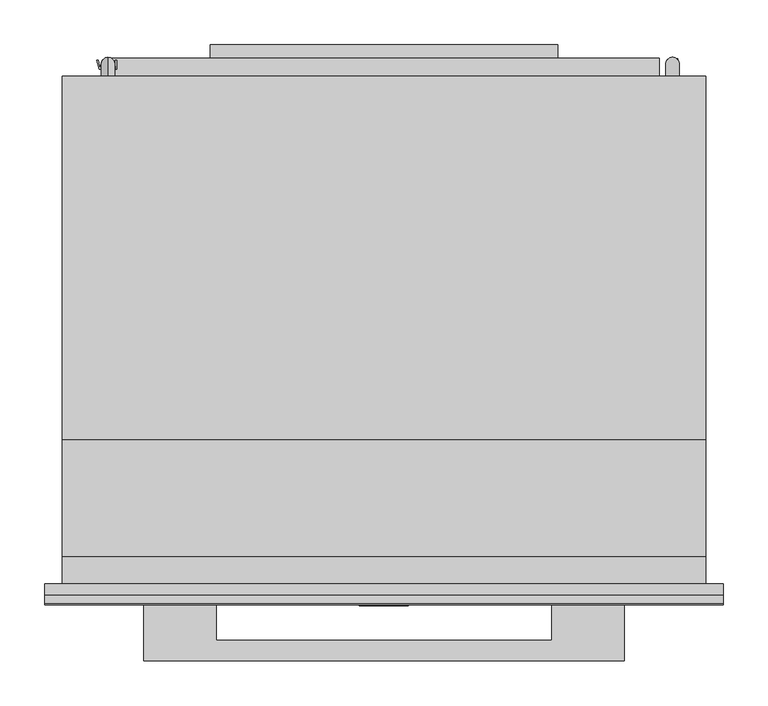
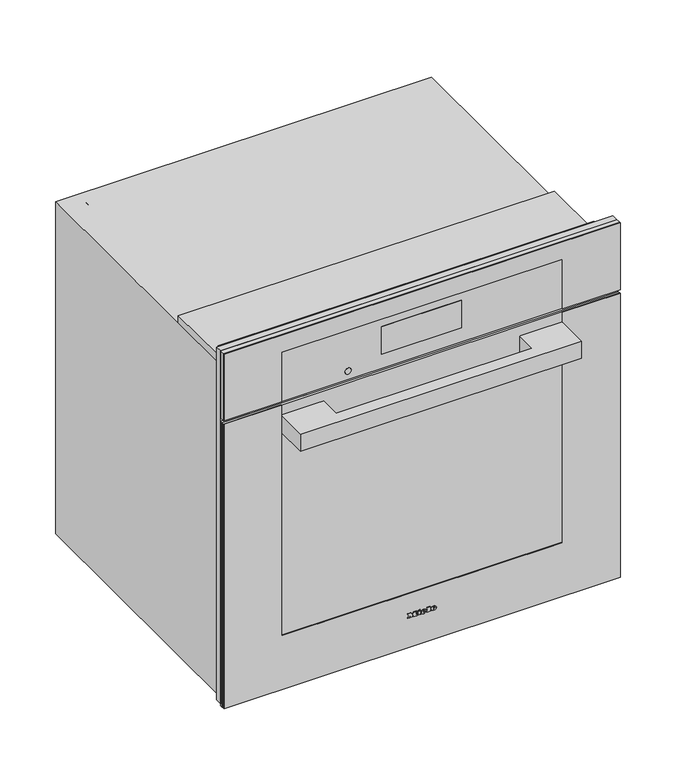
"""IFC4 building model written with IfcOpenShell, lengths in millimetres: proxy geometry, 11805560_USA_H7780BP_EDST-CLST : 22778045_USA_11805560_H7780BP_EDST-CLST."""

from ifc_helpers import new_model, si_unit, point, frame, frame_2d, origin, place, context, project, spatial, polyline, circle_curve, ellipse_curve, trimmed, segment, composite_curve, outline, extrude, faceted_brep, source, transform, mapped, element, save
from ifc_brep_helpers import plane_surface, cylinder_surface, revolved_surface, extruded_surface, advanced_brep


def specialty_equipment_a832f703(model_context):
    return source(origin(), model_context, "Body", "SolidModel", [
        advanced_brep(
        [(21.28, -24.3, 73.133), (21.28, -24.3, 74.042), (27.301, -24.3, 74.042), (16.825, -24.3, 74.042), (19.3, -24.3, 71.0), (27.148, -24.3, 73.133), (24.43, -24.3, 73.133), (22.288, -24.3, 72.125), (21.28, -24.3, 75.194), (21.28, -24.3, 76.175), (22.819, -24.3, 76.175), (22.819, -24.3, 75.194), (21.28, -23.3, 73.133), (22.288, -23.3, 72.125), (24.43, -23.3, 73.133), (27.148, -23.3, 73.133), (19.3, -23.3, 71.0), (16.825, -23.3, 74.042), (27.301, -23.3, 74.042), (21.28, -23.3, 74.042), (21.28, -23.3, 75.194), (22.819, -23.3, 75.194), (22.819, -23.3, 76.175), (21.28, -23.3, 76.175)],
        [
            (0, 1),
            (1, 2),
            (2, 3, ellipse_curve(frame((22.063, -24.3, 74.042), z_axis=(0.0, -1.0, 0.0), x_axis=(-1.0, 0.0, 0.0)), 5.238, 4.329)),
            (3, 4, circle_curve(frame((20.3080491, -24.3, 74.348), z_axis=(0.0, -1.0, 0.0), x_axis=(0.0, 0.0, -1.0)), 3.4964649)),
            (4, 5, circle_curve(frame((21.9581428, -24.3, 76.724), z_axis=(0.0, -1.0, 0.0), x_axis=(0.0, 0.0, -1.0)), 6.3110933)),
            (5, 6),
            (6, 7, circle_curve(frame((22.7279412, -24.3, 73.97), z_axis=(0.0, 1.0, 0.0), x_axis=(0.0, 0.0, -1.0)), 1.896727)),
            (7, 0, circle_curve(frame((22.288, -24.3, 73.133), z_axis=(0.0, 1.0, 0.0), x_axis=(0.0, 0.0, -1.0)), 1.008)),
            (8, 9),
            (9, 10, circle_curve(frame((22.0495, -24.3, 76.175), z_axis=(0.0, 1.0, 0.0), x_axis=(0.0, 0.0, -1.0)), 0.7695)),
            (10, 11),
            (11, 8),
            (12, 13, circle_curve(frame((22.288, -23.3, 73.133), z_axis=(0.0, -1.0, 0.0), x_axis=(0.0, 0.0, -1.0)), 1.008)),
            (13, 14, circle_curve(frame((22.7279412, -23.3, 73.97), z_axis=(0.0, -1.0, 0.0), x_axis=(0.0, 0.0, -1.0)), 1.896727)),
            (14, 15),
            (15, 16, circle_curve(frame((21.9581428, -23.3, 76.724), z_axis=(0.0, 1.0, 0.0), x_axis=(0.0, 0.0, -1.0)), 6.3110933)),
            (16, 17, circle_curve(frame((20.3080491, -23.3, 74.348), z_axis=(0.0, 1.0, 0.0), x_axis=(0.0, 0.0, -1.0)), 3.4964649)),
            (17, 18, ellipse_curve(frame((22.063, -23.3, 74.042), z_axis=(0.0, 1.0, 0.0), x_axis=(-1.0, 0.0, 0.0)), 5.238, 4.329)),
            (18, 19),
            (19, 12),
            (20, 21),
            (21, 22),
            (22, 23, circle_curve(frame((22.0495, -23.3, 76.175), z_axis=(0.0, -1.0, 0.0), x_axis=(0.0, 0.0, -1.0)), 0.7695)),
            (23, 20),
            (0, 12),
            (19, 1),
            (18, 2),
            (5, 15),
            (14, 6),
            (17, 3),
            (13, 7),
            (16, 4),
            (8, 20),
            (23, 9),
            (22, 10),
            (21, 11),
        ],
        [
            plane_surface(frame((21.28, -24.3, 74.042), z_axis=(0.0, -1.0, 0.0), x_axis=(0.0, 0.0, 1.0))),
            plane_surface(frame((21.28, -23.3, 74.042), z_axis=(0.0, 1.0, 0.0), x_axis=(0.0, 0.0, -1.0))),
            plane_surface(frame((21.28, -24.3, 73.133), z_axis=(1.0, 0.0, 0.0), x_axis=(0.0, 1.0, 0.0))),
            plane_surface(frame((21.28, -24.3, 74.042), z_axis=(0.0, 0.0, -1.0), x_axis=(0.0, 1.0, 0.0))),
            plane_surface(frame((27.148, -24.3, 73.133), z_axis=(0.0, 0.0, 1.0), x_axis=(0.0, 1.0, 0.0))),
            extruded_surface(trimmed(ellipse_curve(frame((22.063, -22.3, 74.042), z_axis=(0.0, -1.0, 0.0), x_axis=(-1.0, 0.0, 0.0)), 5.238, 4.329), [point((27.301, -22.3, 74.042))], [point((16.825, -22.3, 74.042))], True, "CARTESIAN"), (0.0, -1.0, 0.0), 1.0),
            revolved_surface(polyline([(22.7279412, -23.3, 72.073273), (22.7279412, -24.3, 72.073273)]), (22.7279412, -23.3, 73.97), (0.0, 1.0, 0.0)),
            revolved_surface(polyline([(22.288, -23.3, 72.125), (22.288, -24.3, 72.125)]), (22.288, -23.3, 73.133), (0.0, 1.0, 0.0)),
            cylinder_surface(frame((20.3080491, -23.3, 74.348), z_axis=(0.0, -1.0, 0.0), x_axis=(0.0, 0.0, -1.0)), 3.4964649),
            cylinder_surface(frame((21.9581428, -23.3, 76.724), z_axis=(0.0, -1.0, 0.0), x_axis=(0.0, 0.0, -1.0)), 6.3110933),
            plane_surface(frame((21.28, -24.3, 75.194), z_axis=(1.0, 0.0, 0.0), x_axis=(0.0, 1.0, 0.0))),
            revolved_surface(polyline([(22.0495, -23.3, 75.4055), (22.0495, -24.3, 75.4055)]), (22.0495, -23.3, 76.175), (0.0, 1.0, 0.0)),
            plane_surface(frame((22.819, -24.3, 76.175), z_axis=(-1.0, 0.0, 0.0), x_axis=(0.0, 1.0, 0.0))),
            plane_surface(frame((22.819, -24.3, 75.194), z_axis=(0.0, 0.0, 1.0), x_axis=(0.0, 1.0, 0.0))),
        ],
        [
            (0, [[1, 2, 3, 4, 5, 6, 7, 8], [9, 10, 11, 12]]),
            (1, [[13, 14, 15, 16, 17, 18, 19, 20], [21, 22, 23, 24]]),
            (2, [[-1, 25, -20, 26]]),
            (3, [[-2, -26, -19, 27]]),
            (4, [[-6, 28, -15, 29]]),
            (5, [[-3, -27, -18, 30]]),
            (6, [[-7, -29, -14, 31]]),
            (7, [[-8, -31, -13, -25]]),
            (8, [[-4, -30, -17, 32]]),
            (9, [[-5, -32, -16, -28]]),
            (10, [[-9, 33, -24, 34]]),
            (11, [[-10, -34, -23, 35]]),
            (12, [[-11, -35, -22, 36]]),
            (13, [[-12, -36, -21, -33]]),
        ],
    ),
        advanced_brep(
        [(2.497, -24.3, 73.133), (2.497, -24.3, 74.042), (8.518, -24.3, 74.042), (-1.958, -24.3, 74.042), (0.517, -24.3, 71.0), (8.365, -24.3, 73.133), (5.647, -24.3, 73.133), (3.505, -24.3, 72.125), (2.497, -24.3, 75.194), (2.497, -24.3, 76.175), (4.036, -24.3, 76.175), (4.036, -24.3, 75.194), (2.497, -23.3, 73.133), (3.505, -23.3, 72.125), (5.647, -23.3, 73.133), (8.365, -23.3, 73.133), (0.517, -23.3, 71.0), (-1.958, -23.3, 74.042), (8.518, -23.3, 74.042), (2.497, -23.3, 74.042), (2.497, -23.3, 75.194), (4.036, -23.3, 75.194), (4.036, -23.3, 76.175), (2.497, -23.3, 76.175)],
        [
            (0, 1),
            (1, 2),
            (2, 3, ellipse_curve(frame((3.28, -24.3, 74.042), z_axis=(0.0, -1.0, 0.0), x_axis=(-1.0, 0.0, 0.0)), 5.238, 4.329)),
            (3, 4, circle_curve(frame((1.5250491, -24.3, 74.348), z_axis=(0.0, -1.0, 0.0), x_axis=(0.0, 0.0, -1.0)), 3.4964649)),
            (4, 5, circle_curve(frame((3.1751428, -24.3, 76.724), z_axis=(0.0, -1.0, 0.0), x_axis=(0.0, 0.0, -1.0)), 6.3110933)),
            (5, 6),
            (6, 7, circle_curve(frame((3.9449412, -24.3, 73.97), z_axis=(0.0, 1.0, 0.0), x_axis=(0.0, 0.0, -1.0)), 1.896727)),
            (7, 0, circle_curve(frame((3.505, -24.3, 73.133), z_axis=(0.0, 1.0, 0.0), x_axis=(0.0, 0.0, -1.0)), 1.008)),
            (8, 9),
            (9, 10, circle_curve(frame((3.2665, -24.3, 76.175), z_axis=(0.0, 1.0, 0.0), x_axis=(0.0, 0.0, -1.0)), 0.7695)),
            (10, 11),
            (11, 8),
            (12, 13, circle_curve(frame((3.505, -23.3, 73.133), z_axis=(0.0, -1.0, 0.0), x_axis=(0.0, 0.0, -1.0)), 1.008)),
            (13, 14, circle_curve(frame((3.9449412, -23.3, 73.97), z_axis=(0.0, -1.0, 0.0), x_axis=(0.0, 0.0, -1.0)), 1.896727)),
            (14, 15),
            (15, 16, circle_curve(frame((3.1751428, -23.3, 76.724), z_axis=(0.0, 1.0, 0.0), x_axis=(0.0, 0.0, -1.0)), 6.3110933)),
            (16, 17, circle_curve(frame((1.5250491, -23.3, 74.348), z_axis=(0.0, 1.0, 0.0), x_axis=(0.0, 0.0, -1.0)), 3.4964649)),
            (17, 18, ellipse_curve(frame((3.28, -23.3, 74.042), z_axis=(0.0, 1.0, 0.0), x_axis=(-1.0, 0.0, 0.0)), 5.238, 4.329)),
            (18, 19),
            (19, 12),
            (20, 21),
            (21, 22),
            (22, 23, circle_curve(frame((3.2665, -23.3, 76.175), z_axis=(0.0, -1.0, 0.0), x_axis=(0.0, 0.0, -1.0)), 0.7695)),
            (23, 20),
            (0, 12),
            (19, 1),
            (18, 2),
            (5, 15),
            (14, 6),
            (17, 3),
            (13, 7),
            (16, 4),
            (8, 20),
            (23, 9),
            (22, 10),
            (21, 11),
        ],
        [
            plane_surface(frame((2.497, -24.3, 74.042), z_axis=(0.0, -1.0, 0.0), x_axis=(0.0, 0.0, 1.0))),
            plane_surface(frame((2.497, -23.3, 74.042), z_axis=(0.0, 1.0, 0.0), x_axis=(0.0, 0.0, -1.0))),
            plane_surface(frame((2.497, -24.3, 73.133), z_axis=(1.0, 0.0, 0.0), x_axis=(0.0, 1.0, 0.0))),
            plane_surface(frame((2.497, -24.3, 74.042), z_axis=(0.0, 0.0, -1.0), x_axis=(0.0, 1.0, 0.0))),
            plane_surface(frame((8.365, -24.3, 73.133), z_axis=(0.0, 0.0, 1.0), x_axis=(0.0, 1.0, 0.0))),
            extruded_surface(trimmed(ellipse_curve(frame((3.28, -22.3, 74.042), z_axis=(0.0, -1.0, 0.0), x_axis=(-1.0, 0.0, 0.0)), 5.238, 4.329), [point((8.518, -22.3, 74.042))], [point((-1.958, -22.3, 74.042))], True, "CARTESIAN"), (0.0, -1.0, 0.0), 1.0),
            revolved_surface(polyline([(3.9449412, -23.3, 72.073273), (3.9449412, -24.3, 72.073273)]), (3.9449412, -23.3, 73.97), (0.0, 1.0, 0.0)),
            revolved_surface(polyline([(3.505, -23.3, 72.125), (3.505, -24.3, 72.125)]), (3.505, -23.3, 73.133), (0.0, 1.0, 0.0)),
            cylinder_surface(frame((1.5250491, -23.3, 74.348), z_axis=(0.0, -1.0, 0.0), x_axis=(0.0, 0.0, -1.0)), 3.4964649),
            cylinder_surface(frame((3.1751428, -23.3, 76.724), z_axis=(0.0, -1.0, 0.0), x_axis=(0.0, 0.0, -1.0)), 6.3110933),
            plane_surface(frame((2.497, -24.3, 75.194), z_axis=(1.0, 0.0, 0.0), x_axis=(0.0, 1.0, 0.0))),
            revolved_surface(polyline([(3.2665, -23.3, 75.4055), (3.2665, -24.3, 75.4055)]), (3.2665, -23.3, 76.175), (0.0, 1.0, 0.0)),
            plane_surface(frame((4.036, -24.3, 76.175), z_axis=(-1.0, 0.0, 0.0), x_axis=(0.0, 1.0, 0.0))),
            plane_surface(frame((4.036, -24.3, 75.194), z_axis=(0.0, 0.0, 1.0), x_axis=(0.0, 1.0, 0.0))),
        ],
        [
            (0, [[1, 2, 3, 4, 5, 6, 7, 8], [9, 10, 11, 12]]),
            (1, [[13, 14, 15, 16, 17, 18, 19, 20], [21, 22, 23, 24]]),
            (2, [[-1, 25, -20, 26]]),
            (3, [[-2, -26, -19, 27]]),
            (4, [[-6, 28, -15, 29]]),
            (5, [[-3, -27, -18, 30]]),
            (6, [[-7, -29, -14, 31]]),
            (7, [[-8, -31, -13, -25]]),
            (8, [[-4, -30, -17, 32]]),
            (9, [[-5, -32, -16, -28]]),
            (10, [[-9, 33, -24, 34]]),
            (11, [[-10, -34, -23, 35]]),
            (12, [[-11, -35, -22, 36]]),
            (13, [[-12, -36, -21, -33]]),
        ],
    ),
        extrude(outline(polyline([(79.469, -7.34), (78.011, -6.656), (79.433, -3.605), (80.891, -4.28), (79.469, -7.34)])), frame((0.0, -24.3, 0.0), z_axis=(0.0, 1.0, 0.0), x_axis=(0.0, 0.0, 1.0)), (0.0, 0.0, 1.0), 1.0),
        extrude(outline(polyline([(77.813, -9.563), (76.202, -9.563), (76.202, -8.492), (72.512, -8.492), (72.512, -9.563), (71.0, -9.563), (71.0, -2.462), (72.512, -2.462), (72.512, -3.506), (77.813, -3.506), (77.813, -9.563)])), frame((0.0, -24.3, 0.0), z_axis=(0.0, 1.0, 0.0), x_axis=(0.0, 0.0, 1.0)), (0.0, 0.0, 1.0), 1.0),
        extrude(outline(polyline([(78.533, 9.022), (78.533, 10.102), (72.512, 10.102), (72.512, 9.022), (71.0, 9.022), (71.0, 16.321), (72.512, 16.321), (72.512, 15.214), (80.0, 15.214), (80.0, 9.022), (78.533, 9.022)])), frame((0.0, -24.3, 0.0), z_axis=(0.0, 1.0, 0.0), x_axis=(0.0, 0.0, 1.0)), (0.0, 0.0, 1.0), 1.0),
        extrude(outline(polyline([(78.533, -27.5), (78.533, -26.411), (72.512, -26.411), (72.512, -27.5), (71.0, -27.5), (71.0, -23.54), (72.512, -23.54), (72.512, -24.62), (76.3341247, -24.62), (71.0, -20.597), (76.4402223, -16.556), (72.512, -16.556), (72.512, -17.663), (71.0, -17.663), (71.0, -10.481), (72.512, -10.481), (72.512, -11.624), (78.533, -11.624), (78.533, -10.481), (80.0, -10.481), (80.0, -15.962), (76.625, -18.59), (80.0, -21.227), (80.0, -27.5), (78.533, -27.5)])), frame((0.0, -24.3, 0.0), z_axis=(0.0, 1.0, 0.0), x_axis=(0.0, 0.0, 1.0)), (0.0, 0.0, 1.0), 1.0),
        extrude(outline(polyline([(585.0, -268.5), (585.0, -378.5), (11.0, -378.5), (11.0, 378.5), (585.0, 378.5), (585.0, 268.5), (120.0, 268.5), (120.0, -268.5), (585.0, -268.5)])), frame((0.0, -23.3, 0.0), z_axis=(0.0, 1.0, 0.0), x_axis=(0.0, 0.0, 1.0)), (0.0, 0.0, 1.0), 1.3),
        extrude(outline(polyline([(378.5, -22.0), (-378.5, -22.0), (-378.5, -18.0), (378.5, -18.0), (378.5, -22.0)])), frame((0.0, 0.0, 11.0), z_axis=(0.0, 0.0, 1.0), x_axis=(1.0, 0.0, 0.0)), (0.0, 0.0, 1.0), 574.0),
        extrude(outline(polyline([(-187.0, -22.0), (-187.0, -63.0), (187.0, -63.0), (187.0, -22.0), (268.0, -22.0), (268.0, -86.0), (-268.0, -86.0), (-268.0, -22.0), (-187.0, -22.0)])), frame((0.0, 0.0, 530.0), z_axis=(0.0, 0.0, 1.0), x_axis=(1.0, 0.0, 0.0)), (0.0, 0.0, 1.0), 35.0),
        extrude(outline(polyline([(378.5, -18.0), (-378.5, -18.0), (-378.5, -13.0), (378.5, -13.0), (378.5, -18.0)])), frame((0.0, 0.0, 11.0), z_axis=(0.0, 0.0, 1.0), x_axis=(1.0, 0.0, 0.0)), (0.0, 0.0, 1.0), 574.0),
        extrude(outline(polyline([(-250.5, -18.0), (250.5, -18.0), (250.5, -22.0), (-250.5, -22.0), (-250.5, -18.0)])), frame((0.0, 0.0, 150.0), z_axis=(0.0, 0.0, 1.0), x_axis=(1.0, 0.0, 0.0)), (0.0, 0.0, 1.0), 344.0),
        extrude(outline(polyline([(727.0, -378.5), (592.0, -378.5), (592.0, -268.5), (692.0, -268.5), (692.0, 268.5), (592.0, 268.5), (592.0, 378.5), (727.0, 378.5), (727.0, -378.5)])), frame((0.0, -23.3, 0.0), z_axis=(0.0, 1.0, 0.0), x_axis=(0.0, 0.0, 1.0)), (0.0, 0.0, 1.0), 1.3),
        extrude(outline(polyline([(-76.5, -21.0), (76.5, -21.0), (76.5, -22.0), (-76.5, -22.0), (-76.5, -21.0)])), frame((0.0, 0.0, 620.0), z_axis=(0.0, 0.0, 1.0), x_axis=(1.0, 0.0, 0.0)), (0.0, 0.0, 1.0), 56.0),
        faceted_brep([(378.5, -22.0, 727.0), (-378.5, -22.0, 727.0), (-378.5, -22.0, 592.0), (378.5, -22.0, 592.0), (76.5, -22.0, 676.0), (76.5, -22.0, 620.0), (-76.5, -22.0, 620.0), (-76.5, -22.0, 676.0), (378.5, -13.0, 727.0), (378.5, -13.0, 592.0), (-378.5, -13.0, 592.0), (-378.5, -13.0, 727.0), (76.5, -21.0, 676.0), (-76.5, -21.0, 676.0), (-76.5, -21.0, 620.0), (76.5, -21.0, 620.0)], [[[0, 1, 2, 3], [4, 5, 6, 7]], [[8, 9, 10, 11]], [[1, 0, 8, 11]], [[2, 1, 11, 10]], [[3, 2, 10, 9]], [[0, 3, 9, 8]], [[12, 13, 14, 15]], [[12, 15, 5, 4]], [[15, 14, 6, 5]], [[14, 13, 7, 6]], [[13, 12, 4, 7]]]),
        extrude(outline(composite_curve([segment(trimmed(circle_curve(frame_2d((609.0, -140.5745637)), 6.0), [point((609.0, -146.5745637))], [point((609.0, -134.5745637))], False, "CARTESIAN"), True, "CONTINUOUS"), segment(trimmed(circle_curve(frame_2d((609.0, -140.5745637)), 6.0), [point((609.0, -134.5745637))], [point((609.0, -146.5745637))], False, "CARTESIAN"), True, "CONTINUOUS")], self_intersect=False)), frame((0.0, -22.5, 0.0), z_axis=(0.0, 1.0, 0.0), x_axis=(0.0, 0.0, 1.0)), (0.0, 0.0, 1.0), 1.0),
        extrude(outline(polyline([(327.856335, 586.4164958), (327.856335, 576.4164958), (322.0, 576.4164958), (322.0, 577.4164958), (326.856335, 577.4164958), (326.856335, 580.9164958), (323.9061855, 580.9164958), (323.9061855, 581.9164958), (326.856335, 581.9164958), (326.856335, 585.4164958), (322.0, 585.4164958), (322.0, 586.4164958), (327.856335, 586.4164958)])), frame((0.0, 0.0, 585.0), z_axis=(0.0, 0.0, 1.0), x_axis=(1.0, 0.0, 0.0)), (0.0, 0.0, 1.0), 1.0),
        extrude(outline(polyline([(320.5, 576.4164958), (315.5, 576.4164958), (315.5, 577.4164958), (319.3952098, 577.4164958), (319.3952098, 586.4164958), (320.5, 586.4164958), (320.5, 576.4164958)])), frame((0.0, 0.0, 585.0), z_axis=(0.0, 0.0, 1.0), x_axis=(1.0, 0.0, 0.0)), (0.0, 0.0, 1.0), 1.0),
        advanced_brep(
        [(329.5, 567.0, 616.0), (314.5, 567.0, 616.0), (329.5, 580.5, 616.0), (314.5, 580.5, 616.0), (329.5, 580.5, 586.0), (314.5, 580.5, 586.0)],
        [
            (0, 1, circle_curve(frame((322.0, 567.0, 616.0), z_axis=(0.0, -1.0, 0.0), x_axis=(-1.0, 0.0, 0.0)), 7.5)),
            (1, 0, circle_curve(frame((322.0, 567.0, 616.0), z_axis=(0.0, -1.0, 0.0), x_axis=(-1.0, 0.0, 0.0)), 7.5)),
            (0, 2),
            (2, 3, ellipse_curve(frame((322.0, 580.5, 616.0), z_axis=(0.0, -0.7071067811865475, 0.7071067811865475), x_axis=(0.0, -0.7071067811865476, -0.7071067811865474)), 10.6066017, 7.5)),
            (3, 1),
            (3, 2, ellipse_curve(frame((322.0, 580.5, 616.0), z_axis=(0.0, -0.7071067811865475, 0.7071067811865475), x_axis=(0.0, -0.7071067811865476, -0.7071067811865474)), 10.6066017, 7.5)),
            (4, 5, circle_curve(frame((322.0, 580.5, 586.0), z_axis=(0.0, 0.0, -1.0), x_axis=(-1.0, 0.0, 0.0)), 7.5)),
            (5, 4, circle_curve(frame((322.0, 580.5, 586.0), z_axis=(0.0, 0.0, -1.0), x_axis=(-1.0, 0.0, 0.0)), 7.5)),
            (2, 4),
            (5, 3),
        ],
        [
            plane_surface(frame((322.0, 567.0, 616.0), z_axis=(0.0, -1.0, 0.0), x_axis=(-1.0, 0.0, 0.0))),
            cylinder_surface(frame((322.0, 567.0, 616.0), z_axis=(0.0, -1.0, 0.0), x_axis=(-1.0, 0.0, 0.0)), 7.5),
            plane_surface(frame((322.0, 580.5, 586.0), z_axis=(0.0, 0.0, -1.0), x_axis=(-1.0, 0.0, 0.0))),
            cylinder_surface(frame((322.0, 580.5, 616.0), z_axis=(0.0, 0.0, 1.0), x_axis=(-1.0, 0.0, 0.0)), 7.5),
        ],
        [
            (0, [[1, 2]]),
            (1, [[-1, 3, 4, 5]]),
            (1, [[-2, -5, 6, -3]]),
            (2, [[7, 8]]),
            (3, [[-4, 9, -8, 10]]),
            (3, [[-6, -10, -7, -9]]),
        ],
    ),
        extrude(outline(polyline([(-299.6202453, 584.6579034), (-298.3679159, 584.6579034), (-298.3679159, 574.6085654), (-299.6149696, 574.6085654), (-299.6149696, 578.0788376), (-301.2450476, 579.7089156), (-305.0884371, 574.6085654), (-306.7066233, 574.6085654), (-302.2301778, 580.5490092), (-306.5150452, 584.6543198), (-304.7713587, 584.6543198), (-299.6202453, 579.7190632), (-299.6202453, 584.6579034)])), frame((0.0, 0.0, 614.0), z_axis=(0.0, 0.0, 1.0), x_axis=(1.0, 0.0, 0.0)), (0.0, 0.0, 1.0), 1.0),
        extrude(outline(polyline([(-307.9869589, 584.6543198), (-306.6749258, 584.6543198), (-309.4307199, 574.6085654), (-310.9513148, 574.6085654), (-313.5193527, 583.4401554), (-316.2529808, 574.6085654), (-317.6013152, 574.6085654), (-320.3417347, 584.6663082), (-319.072273, 584.6663082), (-316.9158246, 576.0172661), (-314.4357517, 584.6663082), (-312.5770153, 584.6663082), (-310.0671021, 576.0346114), (-307.9869589, 584.6543198)])), frame((0.0, 0.0, 614.0), z_axis=(0.0, 0.0, 1.0), x_axis=(1.0, 0.0, 0.0)), (0.0, 0.0, 1.0), 1.0),
        advanced_brep(
        [(-308.0, 573.0, 615.0), (-308.0, 588.0, 615.0), (-308.0, 573.0, 637.5), (-308.0, 588.0, 652.5), (-308.0, 559.0, 637.5), (-308.0, 559.0, 652.5)],
        [
            (0, 1, circle_curve(frame((-308.0, 580.5, 615.0), z_axis=(0.0, 0.0, -1.0), x_axis=(0.0, 1.0, 0.0)), 7.5)),
            (1, 0, circle_curve(frame((-308.0, 580.5, 615.0), z_axis=(0.0, 0.0, -1.0), x_axis=(0.0, 1.0, 0.0)), 7.5)),
            (0, 2),
            (2, 3, ellipse_curve(frame((-308.0, 580.5, 645.0), z_axis=(0.0, 0.7071067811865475, -0.7071067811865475), x_axis=(0.0, -0.7071067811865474, -0.7071067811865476)), 10.6066017, 7.5)),
            (3, 1),
            (3, 2, ellipse_curve(frame((-308.0, 580.5, 645.0), z_axis=(0.0, 0.7071067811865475, -0.7071067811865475), x_axis=(0.0, -0.7071067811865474, -0.7071067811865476)), 10.6066017, 7.5)),
            (4, 5, circle_curve(frame((-308.0, 559.0, 645.0), z_axis=(0.0, -1.0, 0.0), x_axis=(0.0, 0.0, 1.0)), 7.5)),
            (5, 4, circle_curve(frame((-308.0, 559.0, 645.0), z_axis=(0.0, -1.0, 0.0), x_axis=(0.0, 0.0, 1.0)), 7.5)),
            (2, 4),
            (5, 3),
        ],
        [
            plane_surface(frame((-308.0, 580.5, 615.0), z_axis=(0.0, 0.0, -1.0), x_axis=(-1.0, 0.0, 0.0))),
            cylinder_surface(frame((-308.0, 580.5, 615.0), z_axis=(0.0, 0.0, -1.0), x_axis=(0.0, 1.0, 0.0)), 7.5),
            plane_surface(frame((-308.0, 559.0, 645.0), z_axis=(0.0, -1.0, 0.0), x_axis=(-1.0, 0.0, 0.0))),
            cylinder_surface(frame((-308.0, 580.5, 645.0), z_axis=(0.0, 1.0, 0.0), x_axis=(0.0, 0.0, 1.0)), 7.5),
        ],
        [
            (0, [[1, 2]]),
            (1, [[-1, 3, 4, 5]]),
            (1, [[-2, -5, 6, -3]]),
            (2, [[7, 8]]),
            (3, [[-4, 9, -8, 10]]),
            (3, [[-6, -10, -7, -9]]),
        ],
    ),
        faceted_brep([(353.5, 25.0, 593.0), (-353.5, 25.0, 593.0), (-353.5, 25.0, 15.0), (353.5, 25.0, 15.0), (-312.5, 25.0, 526.0), (312.5, 25.0, 526.0), (312.5, 25.0, 103.0), (-312.5, 25.0, 103.0), (353.5, 0.0, 593.0), (-353.5, 0.0, 593.0), (-353.5, 0.0, 15.0), (353.5, 0.0, 15.0), (359.0, 0.0, 670.0), (359.0, 0.0, 0.0), (359.0, 567.0, 0.0), (359.0, 567.0, 670.0), (-359.0, 0.0, 0.0), (-359.0, 0.0, 670.0), (-359.0, 567.0, 670.0), (-359.0, 567.0, 0.0), (-307.0, 567.0, 0.0), (-307.0, 587.0, 0.0), (307.0, 587.0, 0.0), (307.0, 567.0, 0.0), (-307.0, 587.0, 584.0), (307.0, 587.0, 584.0), (312.5, 433.0, 526.0), (-312.5, 433.0, 526.0), (-312.5, 433.0, 103.0), (312.5, 433.0, 103.0), (-307.0, 567.0, 584.0), (307.0, 567.0, 584.0)], [[[0, 1, 2, 3], [4, 5, 6, 7]], [[1, 0, 8, 9]], [[2, 1, 9, 10]], [[0, 3, 11, 8]], [[12, 13, 14, 15]], [[16, 17, 18, 19]], [[13, 16, 19, 20, 21, 22, 23, 14]], [[22, 21, 24, 25]], [[17, 12, 15, 18]], [[16, 13, 12, 17], [9, 8, 11, 10]], [[26, 27, 28, 29]], [[27, 26, 5, 4]], [[28, 27, 4, 7]], [[29, 28, 7, 6]], [[26, 29, 6, 5]], [[3, 2, 10, 11]], [[25, 24, 30, 31]], [[20, 30, 24, 21]], [[14, 23, 31, 30, 20, 19, 18, 15]], [[31, 23, 22, 25]]]),
        extrude(outline(polyline([(-194.0, 602.0), (194.0, 602.0), (194.0, 587.0), (-194.0, 587.0), (-194.0, 602.0)])), frame((0.0, 0.0, 230.0), z_axis=(0.0, 0.0, 1.0), x_axis=(1.0, 0.0, 0.0)), (0.0, 0.0, 1.0), 158.0),
        extrude(outline(polyline([(30.0, 705.0), (30.0, 686.0), (161.0, 686.0), (161.0, 670.0), (0.0, 670.0), (0.0, 705.0), (30.0, 705.0)])), frame((-359.0, 0.0, 0.0), z_axis=(1.0, 0.0, 0.0), x_axis=(0.0, 1.0, 0.0)), (0.0, 0.0, 1.0), 718.0),
        extrude(outline(polyline([(15.0, 378.5), (727.0, 378.5), (727.0, -378.5), (15.0, -378.5), (15.0, -353.5), (593.0, -353.5), (593.0, 353.5), (15.0, 353.5), (15.0, 378.5)])), frame((0.0, -13.0, 0.0), z_axis=(0.0, 1.0, 0.0), x_axis=(0.0, 0.0, 1.0)), (0.0, 0.0, 1.0), 13.0),
    ])


if __name__ == "__main__":
    model = new_model("IFC4")
    model_context = context("Model", 3, world=origin())
    ifc_project = project(units=[si_unit("LENGTHUNIT", "METRE", prefix="MILLI")], contexts=[model_context])
    site = spatial("IfcSite", under=ifc_project)
    building = spatial("IfcBuilding", under=site)
    placement = place(None, origin())
    specialty_equipment_shape = specialty_equipment_a832f703(model_context)
    element("IfcBuildingElementProxy", 1, Name="11805560_USA_H7780BP_EDST-CLST : 22778045_USA_11805560_H7780BP_EDST-CLST", ObjectType="11805560_USA_H7780BP_EDST-CLST : 22778045_USA_11805560_H7780BP_EDST-CLST", at=placement, inside=building, context=model_context, shape_type="MappedRepresentation", body=[
        mapped(specialty_equipment_shape, transform((0.0, 0.0, 0.0), x_axis=(1.0, 0.0, 0.0), y_axis=(0.0, 1.0, 0.0), z_axis=(0.0, 0.0, 1.0))),
    ])
    save(model, "model.ifc")
